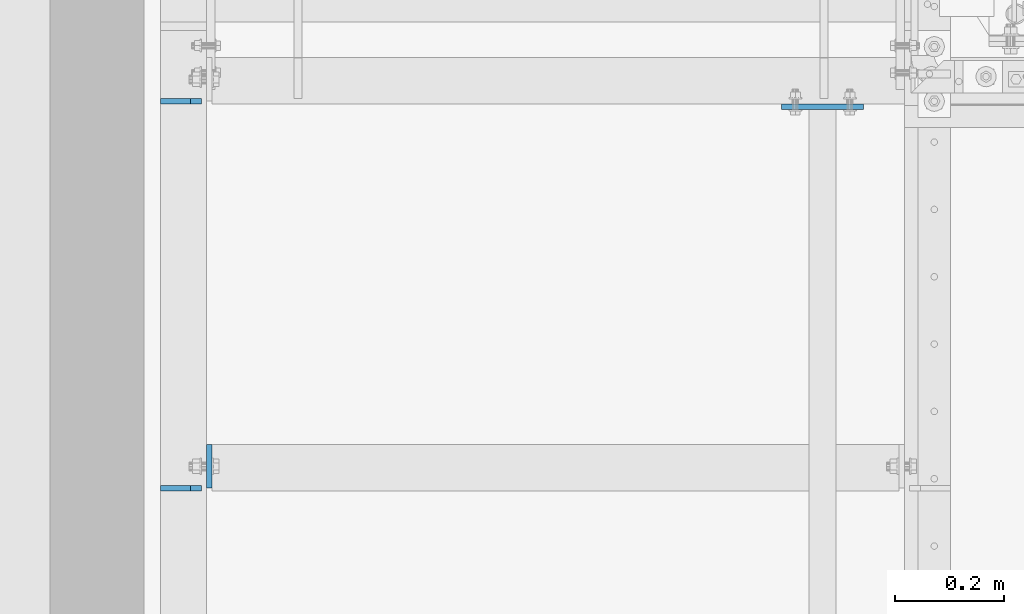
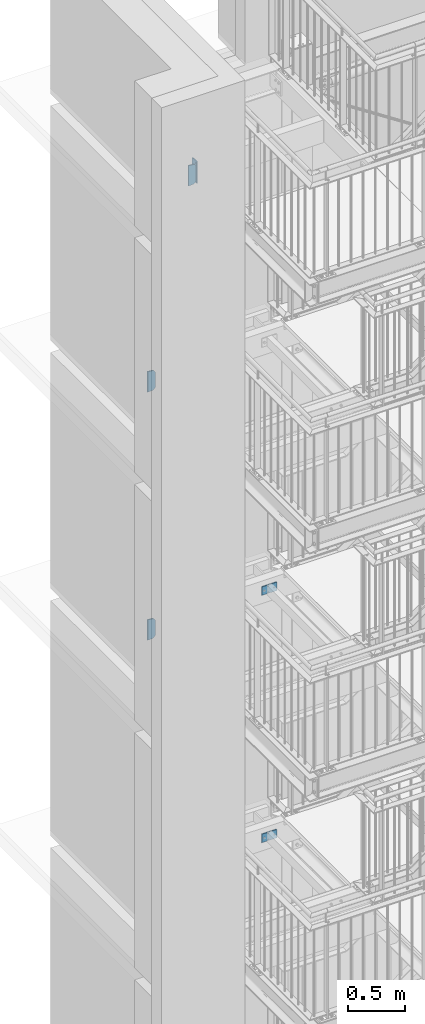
# One storey, part 176 of 825: 6 plates, 18 openings.
"""IFC2X3 building model written with IfcOpenShell, lengths in millimetres."""

from ifc_helpers import new_model, entity, si_unit, converted_unit, frame, frame_2d, origin, origin_with_axes, origin_2d_with_axis, place, context, project, spatial, polyline, circle, outline, extrude, material, layer, layer_set, element, save


model = new_model("IFC2X3")

# Units and contexts
model_context = context("Model", 3, precision=1e-09, world=origin_with_axes())
ifc_project = project(units=[si_unit("LENGTHUNIT", "METRE", prefix="MILLI"), si_unit("AREAUNIT", "SQUARE_METRE"), si_unit("VOLUMEUNIT", "CUBIC_METRE"), converted_unit("PLANEANGLEUNIT", "DEGREE", entity("IfcPlaneAngleMeasure", 0.01745329), si_unit("PLANEANGLEUNIT", "RADIAN"), dimensions=[0, 0, 0, 0, 0, 0, 0])], contexts=[model_context])

# Site, building, storey
site_placement = place(None, origin_with_axes())
site = spatial("IfcSite", under=ifc_project, at=site_placement, Name="Cnopf'sche Kinderklinik", CompositionType="ELEMENT")
building_placement = place(site_placement, origin_with_axes())
building = spatial("IfcBuilding", under=site, at=building_placement, Name="Struktur 1", CompositionType="ELEMENT")
storey_placement = place(building_placement, origin_with_axes())
storey = spatial("IfcBuildingStorey", under=building, at=storey_placement, Name="Default Storey", CompositionType="ELEMENT", Elevation=0.0)

# Plate, openings
ifc_material = material(Name="S235JR")
ifc_layer = layer(ifc_material, 10.0)
ifc_layer_set = layer_set([ifc_layer], Name="S235JR")
plate_1_placement = place(None, frame((4451.713402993, 7306.236971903, 12479.0), z_axis=(0.0, -1.0, 0.0), x_axis=(1.0, 0.0, 0.0)))
plate_1 = element("IfcPlate", 1, at=plate_1_placement, inside=storey, material=ifc_layer_set, Name="-", ObjectType="-", context=model_context, shape_type="SweptSolid", body=[
    extrude(outline(polyline([(-75.0, -45.0), (75.0, -45.0), (75.0, 45.0), (-75.0, 45.0), (-75.0, -45.0)])), origin_with_axes(), (0.0, 0.0, 1.0), 10.0),
])
opening_1_placement = place(plate_1_placement, frame((-10.5, -33.0, -0.5), z_axis=(0.0, 0.0, 1.0), x_axis=(0.0, -1.0, 0.0)))
element("IfcOpeningElement", 2, at=opening_1_placement, cuts=plate_1, ObjectType="Opening", context=model_context, shape_type="SweptSolid", body=[
    extrude(circle(Radius=6.001, at=origin_2d_with_axis()), origin(), (0.0, 0.0, 1.0), 11.0),
])
opening_2_placement = place(plate_1_placement, frame((-10.5, 33.0, -0.5), z_axis=(0.0, 0.0, 1.0), x_axis=(0.0, -1.0, 0.0)))
element("IfcOpeningElement", 3, at=opening_2_placement, cuts=plate_1, ObjectType="Opening", context=model_context, shape_type="SweptSolid", body=[
    extrude(circle(Radius=6.001, at=origin_2d_with_axis()), origin(), (0.0, 0.0, 1.0), 11.0),
])
opening_3_placement = place(plate_1_placement, frame((0.0, 0.0, -0.5), z_axis=(0.0, 0.0, 1.0), x_axis=(1.0, 0.0, 0.0)))
element("IfcOpeningElement", 4, at=opening_3_placement, cuts=plate_1, ObjectType="Opening", context=model_context, shape_type="SweptSolid", body=[
    extrude(circle(Radius=7.001, at=frame_2d((50.0, 0.0), x_axis=(1.0, 0.0))), origin(), (0.0, 0.0, 1.0), 11.0),
])
opening_4_placement = place(plate_1_placement, frame((0.0, 0.0, -0.5), z_axis=(0.0, 0.0, 1.0), x_axis=(1.0, 0.0, 0.0)))
element("IfcOpeningElement", 5, at=opening_4_placement, cuts=plate_1, ObjectType="Opening", context=model_context, shape_type="SweptSolid", body=[
    extrude(circle(Radius=7.001, at=frame_2d((-50.0, 0.0), x_axis=(1.0, 0.0))), origin(), (0.0, 0.0, 1.0), 11.0),
])

plate_2_placement = place(None, frame((4451.713402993, 7306.236971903, 9852.0), z_axis=(0.0, -1.0, 0.0), x_axis=(1.0, 0.0, 0.0)))
plate_2 = element("IfcPlate", 6, at=plate_2_placement, inside=storey, material=ifc_layer_set, Name="-", ObjectType="-", context=model_context, shape_type="SweptSolid", body=[
    extrude(outline(polyline([(-75.0, -45.0), (75.0, -45.0), (75.0, 45.0), (-75.0, 45.0), (-75.0, -45.0)])), origin_with_axes(), (0.0, 0.0, 1.0), 10.0),
])
opening_5_placement = place(plate_2_placement, frame((-10.5, -33.0, -0.5), z_axis=(0.0, 0.0, 1.0), x_axis=(0.0, -1.0, 0.0)))
element("IfcOpeningElement", 7, at=opening_5_placement, cuts=plate_2, ObjectType="Opening", context=model_context, shape_type="SweptSolid", body=[
    extrude(circle(Radius=6.001, at=origin_2d_with_axis()), origin(), (0.0, 0.0, 1.0), 11.0),
])
opening_6_placement = place(plate_2_placement, frame((-10.5, 33.0, -0.5), z_axis=(0.0, 0.0, 1.0), x_axis=(0.0, -1.0, 0.0)))
element("IfcOpeningElement", 8, at=opening_6_placement, cuts=plate_2, ObjectType="Opening", context=model_context, shape_type="SweptSolid", body=[
    extrude(circle(Radius=6.001, at=origin_2d_with_axis()), origin(), (0.0, 0.0, 1.0), 11.0),
])
opening_7_placement = place(plate_2_placement, frame((0.0, 0.0, -0.5), z_axis=(0.0, 0.0, 1.0), x_axis=(1.0, 0.0, 0.0)))
element("IfcOpeningElement", 9, at=opening_7_placement, cuts=plate_2, ObjectType="Opening", context=model_context, shape_type="SweptSolid", body=[
    extrude(circle(Radius=7.001, at=frame_2d((50.0, 0.0), x_axis=(1.0, 0.0))), origin(), (0.0, 0.0, 1.0), 11.0),
])
opening_8_placement = place(plate_2_placement, frame((0.0, 0.0, -0.5), z_axis=(0.0, 0.0, 1.0), x_axis=(1.0, 0.0, 0.0)))
element("IfcOpeningElement", 10, at=opening_8_placement, cuts=plate_2, ObjectType="Opening", context=model_context, shape_type="SweptSolid", body=[
    extrude(circle(Radius=7.001, at=frame_2d((-50.0, 0.0), x_axis=(1.0, 0.0))), origin(), (0.0, 0.0, 1.0), 11.0),
])

plate_3_placement = place(None, frame((3312.213402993, 7316.736971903, 12561.855161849), z_axis=(0.0, -1.0, 0.0), x_axis=(-0.996815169, 0.0, 0.079746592)))
plate_3 = element("IfcPlate", 11, at=plate_3_placement, inside=storey, material=ifc_layer_set, Name="Stiffener#1", ObjectType="Stiffener#1", context=model_context, shape_type="SweptSolid", body=[
    extrude(outline(polyline([(0.0, 0.0), (75.239625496, 0.0), (57.877952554, 217.017159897), (-16.404697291, 205.05517107), (0.0, 0.0)])), origin_with_axes(), (0.0, 0.0, 1.0), 10.0),
])
opening_9_placement = place(plate_3_placement, frame((0.0, 0.0, -0.01), z_axis=(0.0, 0.0, 1.0), x_axis=(1.0, 0.0, 0.0)))
element("IfcOpeningElement", 12, at=opening_9_placement, cuts=plate_3, ObjectType="Opening", context=model_context, shape_type="SweptSolid", body=[
    extrude(outline(polyline([(-16.404697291, 205.05517107), (-14.809765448, 185.118867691), (3.34092195, 208.23487558), (-16.404697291, 205.05517107)])), origin(), (0.0, 0.0, 1.0), 10.02),
])
opening_10_placement = place(plate_3_placement, frame((0.0, 0.0, -0.01), z_axis=(0.0, 0.0, 1.0), x_axis=(1.0, 0.0, 0.0)))
element("IfcOpeningElement", 13, at=opening_10_placement, cuts=plate_3, ObjectType="Opening", context=model_context, shape_type="SweptSolid", body=[
    extrude(outline(polyline([(0.0, 0.0), (20.0, 0.0), (-1.594931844, 19.936303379), (0.0, 0.0)])), origin(), (0.0, 0.0, 1.0), 10.02),
])

plate_4_placement = place(None, frame((3312.213402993, 7316.736971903, 15196.855161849), z_axis=(0.0, -1.0, 0.0), x_axis=(-0.996815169, 0.0, 0.079746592)))
plate_4 = element("IfcPlate", 14, at=plate_4_placement, inside=storey, material=ifc_layer_set, Name="Stiffener#1", ObjectType="Stiffener#1", context=model_context, shape_type="SweptSolid", body=[
    extrude(outline(polyline([(0.0, 0.0), (75.239625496, 0.0), (57.877952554, 217.017159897), (-16.404697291, 205.05517107), (0.0, 0.0)])), origin_with_axes(), (0.0, 0.0, 1.0), 10.0),
])
opening_11_placement = place(plate_4_placement, frame((0.0, 0.0, -0.01), z_axis=(0.0, 0.0, 1.0), x_axis=(1.0, 0.0, 0.0)))
element("IfcOpeningElement", 15, at=opening_11_placement, cuts=plate_4, ObjectType="Opening", context=model_context, shape_type="SweptSolid", body=[
    extrude(outline(polyline([(-16.404697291, 205.05517107), (-14.809765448, 185.118867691), (3.34092195, 208.23487558), (-16.404697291, 205.05517107)])), origin(), (0.0, 0.0, 1.0), 10.02),
])
opening_12_placement = place(plate_4_placement, frame((0.0, 0.0, -0.01), z_axis=(0.0, 0.0, 1.0), x_axis=(1.0, 0.0, 0.0)))
element("IfcOpeningElement", 16, at=opening_12_placement, cuts=plate_4, ObjectType="Opening", context=model_context, shape_type="SweptSolid", body=[
    extrude(outline(polyline([(0.0, 0.0), (20.0, 0.0), (-1.594931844, 19.936303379), (0.0, 0.0)])), origin(), (0.0, 0.0, 1.0), 10.02),
])

plate_5_placement = place(None, frame((3312.213402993, 6606.736971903, 17816.855161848), z_axis=(0.0, -1.0, 0.0), x_axis=(-0.996815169, 0.0, 0.079746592)))
plate_5 = element("IfcPlate", 17, at=plate_5_placement, inside=storey, material=ifc_layer_set, Name="Stiffener#1", ObjectType="Stiffener#1", context=model_context, shape_type="SweptSolid", body=[
    extrude(outline(polyline([(0.0, 0.0), (75.239625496, 0.0), (57.877952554, 217.017159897), (-16.404697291, 205.05517107), (0.0, 0.0)])), origin_with_axes(), (0.0, 0.0, 1.0), 10.0),
])
opening_13_placement = place(plate_5_placement, frame((0.0, 0.0, -0.01), z_axis=(0.0, 0.0, 1.0), x_axis=(1.0, 0.0, 0.0)))
element("IfcOpeningElement", 18, at=opening_13_placement, cuts=plate_5, ObjectType="Opening", context=model_context, shape_type="SweptSolid", body=[
    extrude(outline(polyline([(-16.404697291, 205.05517107), (-14.809765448, 185.118867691), (3.34092195, 208.23487558), (-16.404697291, 205.05517107)])), origin(), (0.0, 0.0, 1.0), 10.02),
])
opening_14_placement = place(plate_5_placement, frame((0.0, 0.0, -0.01), z_axis=(0.0, 0.0, 1.0), x_axis=(1.0, 0.0, 0.0)))
element("IfcOpeningElement", 19, at=opening_14_placement, cuts=plate_5, ObjectType="Opening", context=model_context, shape_type="SweptSolid", body=[
    extrude(outline(polyline([(0.0, 0.0), (20.0, 0.0), (-1.594931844, 19.936303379), (0.0, 0.0)])), origin(), (0.0, 0.0, 1.0), 10.02),
])

plate_6_placement = place(None, frame((3321.713402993, 6601.736971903, 17828.999999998), z_axis=(1.0, 0.0, 0.0), x_axis=(0.0, 0.0, -1.0)))
plate_6 = element("IfcPlate", 20, at=plate_6_placement, inside=storey, material=ifc_layer_set, Name="Endplate", ObjectType="Endplate", context=model_context, shape_type="SweptSolid", body=[
    extrude(outline(polyline([(0.0, 0.0), (230.0, 0.0), (230.0, 80.0), (0.0, 80.0), (0.0, 0.0)])), origin_with_axes(), (0.0, 0.0, 1.0), 10.0),
])
opening_15_placement = place(plate_6_placement, frame((209.0, 17.5, -0.5), z_axis=(0.0, 0.0, 1.0), x_axis=(1.0, 0.0, 0.0)))
element("IfcOpeningElement", 21, at=opening_15_placement, cuts=plate_6, ObjectType="Opening", context=model_context, shape_type="SweptSolid", body=[
    extrude(circle(Radius=6.001, at=origin_2d_with_axis()), origin(), (0.0, 0.0, 1.0), 11.0),
])
opening_16_placement = place(plate_6_placement, frame((21.0, 17.5, -0.5), z_axis=(0.0, 0.0, 1.0), x_axis=(1.0, 0.0, 0.0)))
element("IfcOpeningElement", 22, at=opening_16_placement, cuts=plate_6, ObjectType="Opening", context=model_context, shape_type="SweptSolid", body=[
    extrude(circle(Radius=6.001, at=origin_2d_with_axis()), origin(), (0.0, 0.0, 1.0), 11.0),
])
opening_17_placement = place(plate_6_placement, frame((64.001, 40.0, -0.5), z_axis=(0.0, 0.0, -1.0), x_axis=(-1.0, 0.0, 0.0)))
element("IfcOpeningElement", 23, at=opening_17_placement, cuts=plate_6, ObjectType="Opening", context=model_context, shape_type="SweptSolid", body=[
    extrude(circle(Radius=9.001, at=frame_2d((9.001, 0.0), x_axis=(1.0, 0.0))), origin(), (0.0, 0.0, -1.0), 11.0),
])
opening_18_placement = place(plate_6_placement, frame((184.001, 40.0, -0.5), z_axis=(0.0, 0.0, -1.0), x_axis=(-1.0, 0.0, 0.0)))
element("IfcOpeningElement", 24, at=opening_18_placement, cuts=plate_6, ObjectType="Opening", context=model_context, shape_type="SweptSolid", body=[
    extrude(circle(Radius=9.001, at=frame_2d((9.001, 0.0), x_axis=(1.0, 0.0))), origin(), (0.0, 0.0, -1.0), 11.0),
])

save(model, "model.ifc")
